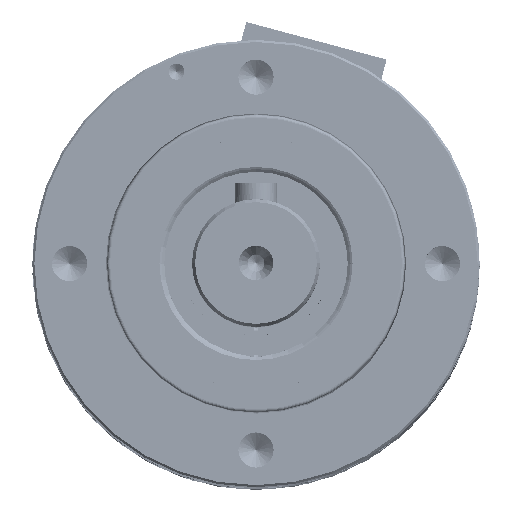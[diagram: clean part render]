
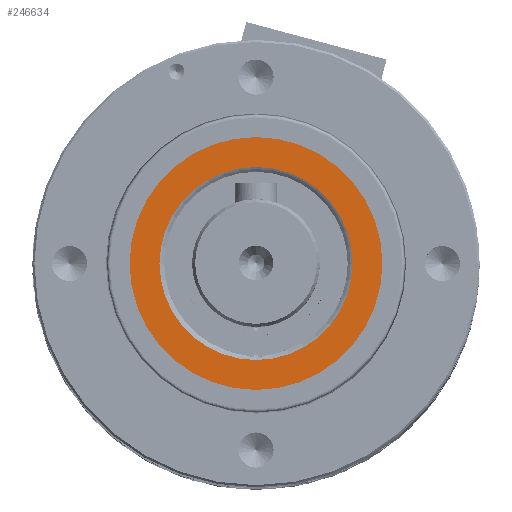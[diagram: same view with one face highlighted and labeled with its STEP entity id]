
A CAD part, top view. The second image highlights one B-rep face of the part: STEP entity #246634.
In plain terms, the highlighted planar face has unit normal (0, 0, 1).
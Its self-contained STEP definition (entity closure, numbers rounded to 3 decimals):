
#25328 = CARTESIAN_POINT ( 'NONE',  ( 5.131, -8.599, 138.685 ) ) ;
#51535 = EDGE_CURVE ( 'NONE', #359370, #251832, #117414, .T. ) ;
#54874 = DIRECTION ( 'NONE',  ( 0., 0., 1. ) ) ;
#65433 = ORIENTED_EDGE ( 'NONE', *, *, #168777, .T. ) ;
#79042 = ORIENTED_EDGE ( 'NONE', *, *, #312941, .F. ) ;
#80181 = CARTESIAN_POINT ( 'NONE',  ( 5.131, -8.599, 138.685 ) ) ;
#106719 = CARTESIAN_POINT ( 'NONE',  ( 5.131, -8.599, 138.685 ) ) ;
#117414 = CIRCLE ( 'NONE', #268399, 9.06 ) ;
#134400 = FACE_OUTER_BOUND ( 'NONE', #288580, .T. ) ;
#140389 = AXIS2_PLACEMENT_3D ( 'NONE', #25328, #199327, #282755 ) ;
#140719 = DIRECTION ( 'NONE',  ( 0., 0., -1. ) ) ;
#143783 = CARTESIAN_POINT ( 'NONE',  ( 5.131, -8.599, 138.685 ) ) ;
#156210 = CARTESIAN_POINT ( 'NONE',  ( -6.734, -8.599, 138.685 ) ) ;
#167108 = DIRECTION ( 'NONE',  ( 0., 0., 1. ) ) ;
#168777 = EDGE_CURVE ( 'NONE', #359370, #251832, #215047, .T. ) ;
#170190 = DIRECTION ( 'NONE',  ( 1., 0., 0. ) ) ;
#170859 = DIRECTION ( 'NONE',  ( 1., 0., 0. ) ) ;
#172777 = VERTEX_POINT ( 'NONE', #344760 ) ;
#175500 = AXIS2_PLACEMENT_3D ( 'NONE', #106719, #140719, #170859 ) ;
#187950 = EDGE_CURVE ( 'NONE', #172777, #294179, #370069, .T. ) ;
#190739 = CARTESIAN_POINT ( 'NONE',  ( 14.191, -8.599, 138.685 ) ) ;
#199327 = DIRECTION ( 'NONE',  ( 0., 0., 1. ) ) ;
#209165 = CARTESIAN_POINT ( 'NONE',  ( 5.131, -8.599, 138.685 ) ) ;
#215047 = CIRCLE ( 'NONE', #263362, 9.06 ) ;
#221383 = PLANE ( 'NONE',  #367538 ) ;
#235622 = DIRECTION ( 'NONE',  ( 0., 0., -1. ) ) ;
#235982 = CIRCLE ( 'NONE', #175500, 11.865 ) ;
#246634 = ADVANCED_FACE ( 'NONE', ( #282009, #134400 ), #221383, .T. ) ;
#251832 = VERTEX_POINT ( 'NONE', #313582 ) ;
#263362 = AXIS2_PLACEMENT_3D ( 'NONE', #209165, #235622, #294437 ) ;
#268399 = AXIS2_PLACEMENT_3D ( 'NONE', #80181, #167108, #367608 ) ;
#271726 = EDGE_LOOP ( 'NONE', ( #321569, #65433 ) ) ;
#282009 = FACE_BOUND ( 'NONE', #271726, .T. ) ;
#282755 = DIRECTION ( 'NONE',  ( 1., 0., 0. ) ) ;
#288580 = EDGE_LOOP ( 'NONE', ( #79042, #358339 ) ) ;
#294179 = VERTEX_POINT ( 'NONE', #156210 ) ;
#294437 = DIRECTION ( 'NONE',  ( 1., 0., 0. ) ) ;
#312941 = EDGE_CURVE ( 'NONE', #172777, #294179, #235982, .T. ) ;
#313582 = CARTESIAN_POINT ( 'NONE',  ( -3.929, -8.599, 138.685 ) ) ;
#321569 = ORIENTED_EDGE ( 'NONE', *, *, #51535, .F. ) ;
#344760 = CARTESIAN_POINT ( 'NONE',  ( 16.996, -8.599, 138.685 ) ) ;
#358339 = ORIENTED_EDGE ( 'NONE', *, *, #187950, .T. ) ;
#359370 = VERTEX_POINT ( 'NONE', #190739 ) ;
#367538 = AXIS2_PLACEMENT_3D ( 'NONE', #143783, #54874, #170190 ) ;
#367608 = DIRECTION ( 'NONE',  ( 1., 0., 0. ) ) ;
#370069 = CIRCLE ( 'NONE', #140389, 11.865 ) ;
